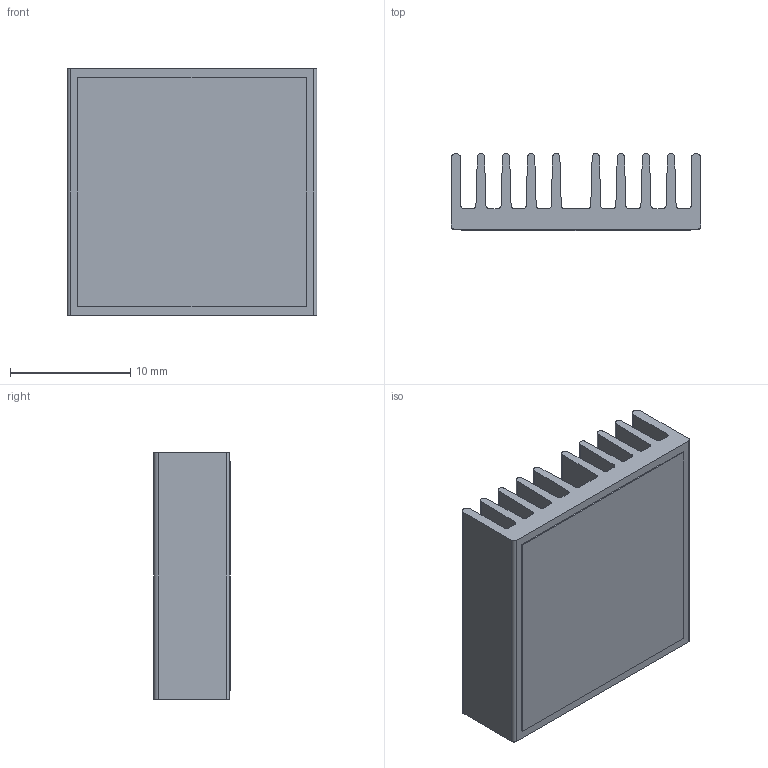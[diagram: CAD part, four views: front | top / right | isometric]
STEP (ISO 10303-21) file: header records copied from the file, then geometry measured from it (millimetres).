
FILE_DESCRIPTION (( 'STEP AP214' ), '1' );
FILE_NAME ('INL21001-6-1.7.STEP', '2023-02-21T16:14:30', ( '' ), ( '' ), 'SwSTEP 2.0', 'SolidWorks 2020', '' );
FILE_SCHEMA (( 'AUTOMOTIVE_DESIGN' ));
Length unit declared in the file: millimetre
Products named in the file (1): INL21001-6-1.7
Bounding box: 20.8 x 6.4 x 20.5 mm (x, y, z)
Volume: 1449 mm3; surface area: 3537 mm2
Topology: 2 solids, 2 shells, 68 faces, 192 edges, 128 vertices
Faces by surface type: plane 38, cylinder 30
Entity records: 3007 total; most frequent: DIRECTION 390, CARTESIAN_POINT 389, ORIENTED_EDGE 384, EDGE_CURVE 192, LINE 132, VECTOR 132, AXIS2_PLACEMENT_3D 129, VERTEX_POINT 128
